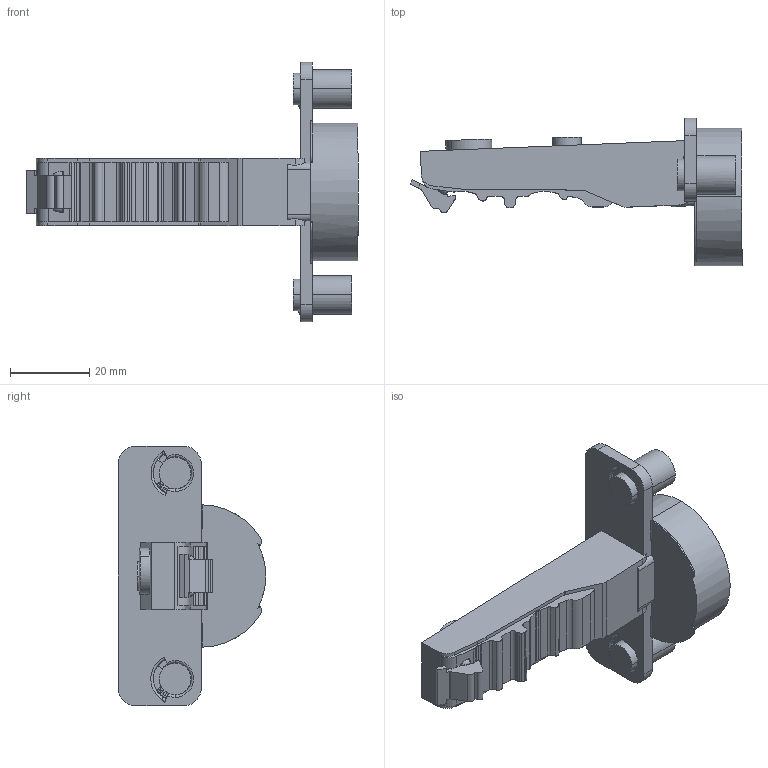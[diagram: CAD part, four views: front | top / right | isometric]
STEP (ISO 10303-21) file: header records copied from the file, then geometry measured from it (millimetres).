
FILE_DESCRIPTION (( 'STEP AP203' ), '1' );
FILE_NAME ('C82A677T0FA-DTC 3D close.STEP', '2024-07-10T09:07:39', ( '微软用户' ), ( '微软中国' ), 'SwSTEP 2.0', 'SolidWorks 2021', '' );
FILE_SCHEMA (( 'CONFIG_CONTROL_DESIGN' ));
Length unit declared in the file: millimetre
Products named in the file (1): C82A677T0FA-DTC 3D close
Bounding box: 83.89 x 37.28 x 65.56 mm (x, y, z)
Volume: 32516.5 mm3; surface area: 10961.2 mm2
Topology: 1 solids, 5 shells, 349 faces, 955 edges, 618 vertices
Faces by surface type: cylinder 145, plane 134, torus 52, bspline 14, cone 4
Entity records: 11745 total; most frequent: CARTESIAN_POINT 2786, ORIENTED_EDGE 1910, DIRECTION 1887, EDGE_CURVE 955, AXIS2_PLACEMENT_3D 712, VERTEX_POINT 618, LINE 463, VECTOR 463
